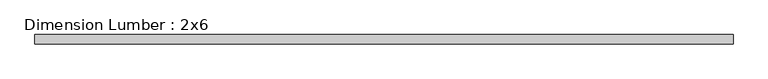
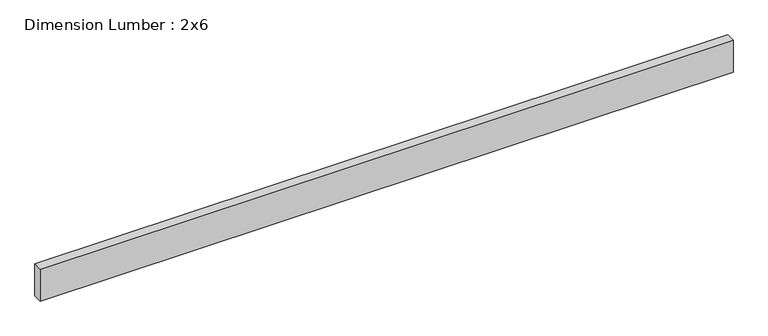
"""IFC4 building model written with IfcOpenShell, lengths in millimetres: beam geometry, Dimension Lumber : 2x6."""

from ifc_helpers import new_model, si_unit, frame, origin, place, context, project, spatial, polyline, outline, extrude, source, transform, mapped, element, save


def dimension_lumber_2x6_a7099535(model_context):
    return source(origin(), model_context, "Body", "SweptSolid", [
        extrude(outline(polyline([(1434.5137095, 19.05), (1434.5137095, -19.05), (-1434.5137095, -19.05), (-1434.5137095, 19.05), (1434.5137095, 19.05)])), frame((0.0, 0.0, -69.85), z_axis=(0.0, 0.0, 1.0), x_axis=(1.0, 0.0, 0.0)), (0.0, 0.0, 1.0), 139.7),
    ])


if __name__ == "__main__":
    model = new_model("IFC4")
    model_context = context("Model", 3, world=origin())
    ifc_project = project(units=[si_unit("LENGTHUNIT", "METRE", prefix="MILLI")], contexts=[model_context])
    site = spatial("IfcSite", under=ifc_project)
    building = spatial("IfcBuilding", under=site)
    placement = place(None, origin())
    dimension_lumber_2x6_shape = dimension_lumber_2x6_a7099535(model_context)
    element("IfcBeam", 1, ObjectType="Dimension Lumber : 2x6", at=placement, inside=building, context=model_context, shape_type="MappedRepresentation", body=[
        mapped(dimension_lumber_2x6_shape, transform((0.0, 0.0, 0.0), x_axis=(1.0, 0.0, 0.0), y_axis=(0.0, 1.0, 0.0), z_axis=(0.0, 0.0, 1.0))),
    ])
    save(model, "model.ifc")
